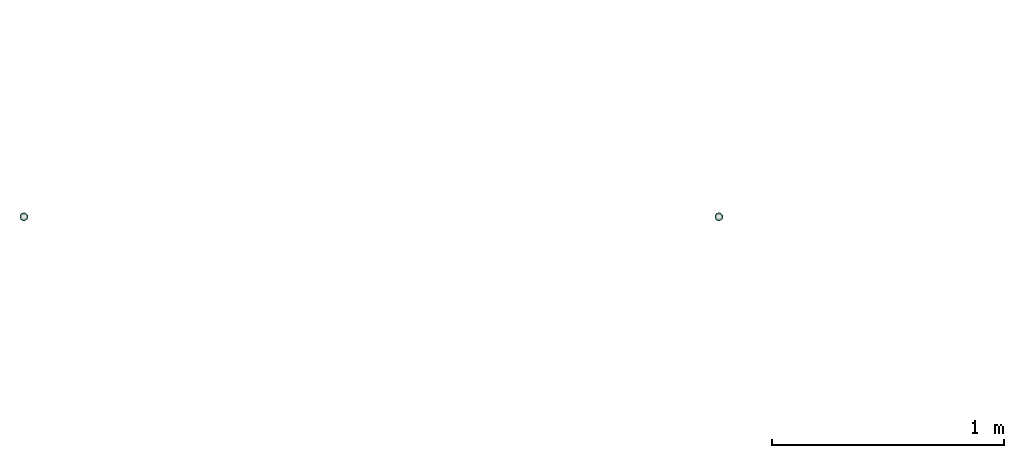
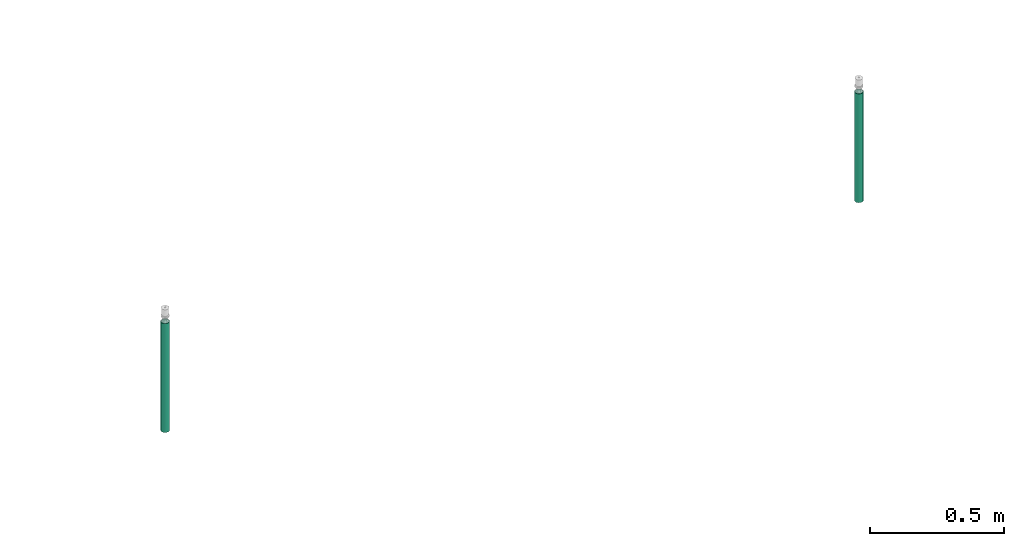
# One storey, part 35 of 44: 2 flow segments.
"""IFC2X3 building model written with IfcOpenShell, lengths in millimetres."""

from ifc_helpers import new_model, entity, si_unit, converted_unit, derived_unit, direction, frame, place, context, subcontext, project, spatial, faceted_brep, type_object, element, save


model = new_model("IFC2X3")

# Units and contexts
model_context = context("Model", 3, precision=0.01, world=frame((0.0, 4.29681676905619e-09, 0.0)), true_north=direction((4.01073788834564e-13, 1.0)))
plan_context = context("Plan", 3, precision=0.01, world=frame((0.0, 4.29681676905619e-09, 0.0)), true_north=direction((4.01073788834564e-13, 1.0)))
body_context = subcontext(model_context, "Body", "Model", "MODEL_VIEW")
ifc_project = project(units=[converted_unit("PLANEANGLEUNIT", "DEGREE", entity("IfcPositiveLengthMeasure", 0.0174532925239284), si_unit("PLANEANGLEUNIT", "RADIAN"), dimensions=[0, 0, 0, 0, 0, 0, 0]), si_unit("AREAUNIT", "SQUARE_METRE"), si_unit("LENGTHUNIT", "METRE", prefix="MILLI"), si_unit("MASSUNIT", "GRAM", prefix="KILO"), si_unit("POWERUNIT", "WATT"), si_unit("PRESSUREUNIT", "PASCAL"), si_unit("FORCEUNIT", "NEWTON", prefix="KILO"), si_unit("ELECTRICVOLTAGEUNIT", "VOLT"), si_unit("ELECTRICCURRENTUNIT", "AMPERE"), si_unit("THERMODYNAMICTEMPERATUREUNIT", "DEGREE_CELSIUS"), si_unit("TIMEUNIT", "SECOND"), si_unit("VOLUMEUNIT", "CUBIC_METRE"), derived_unit("LINEARVELOCITYUNIT", [(si_unit("LENGTHUNIT", "METRE"), 1), (si_unit("TIMEUNIT", "SECOND"), -1)]), derived_unit("VOLUMETRICFLOWRATEUNIT", [(si_unit("VOLUMEUNIT", "CUBIC_METRE"), 1), (si_unit("TIMEUNIT", "SECOND"), -1)]), derived_unit("THERMALTRANSMITTANCEUNIT", [(si_unit("POWERUNIT", "WATT"), 1), (si_unit("THERMODYNAMICTEMPERATUREUNIT", "KELVIN"), -1), (si_unit("AREAUNIT", "SQUARE_METRE"), -1)]), derived_unit("SOUNDPRESSUREUNIT", [(si_unit("PRESSUREUNIT", "PASCAL"), 1)])], contexts=[model_context, plan_context])

# Site, building, storey
site_placement = place(None, frame((0.0, -4.29681676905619e-09, 0.0), z_axis=(0.0, 0.0, 1.0), x_axis=(1.0, 0.0, 0.0)))
site = spatial("IfcSite", under=ifc_project, at=site_placement, CompositionType="ELEMENT")
building_placement = place(site_placement, frame((0.0, 4.29681676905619e-09, 0.0), z_axis=(0.0, 0.0, 1.0), x_axis=(1.0, 0.0, 0.0)))
building = spatial("IfcBuilding", under=site, at=building_placement, Name="mc-building", CompositionType="ELEMENT")
storey_placement = place(building_placement, frame((0.0, 0.0, 207370.0), z_axis=(0.0, 0.0, 1.0), x_axis=(1.0, 0.0, 0.0)))
storey = spatial("IfcBuildingStorey", under=building, at=storey_placement, Name="Nivå E", CompositionType="ELEMENT", Elevation=207370.0)

# Flow segments
pipe_segment_type = type_object("IfcPipeSegmentType", Name="Stålrør normaltykke", PredefinedType="RIGIDSEGMENT")
flow_segment_1_placement = place(storey_placement, frame((521500.0, 447269.83177, 3027.60555000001), z_axis=(1.0, 0.0, 0.0), x_axis=(0.0, 0.0, -1.0)))
element("IfcFlowSegment", 1, at=flow_segment_1_placement, inside=storey, type_object=pipe_segment_type, Name="Stålrør normaltykke", context=body_context, shape_type="Brep", body=[
    faceted_brep([(497.605550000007, 14.9, 0.0), (497.605550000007, 14.6736355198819, -2.58735784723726), (0.0, 14.6736355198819, -2.58735784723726), (0.0, 14.9, 0.0), (497.605550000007, 14.00142004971, -5.09610013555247), (0.0, 14.00142004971, -5.09610013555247), (497.605550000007, 12.9037785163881, -7.45000000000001), (0.0, 12.9037785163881, -7.45000000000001), (497.605550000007, 11.4140622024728, -9.57753538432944), (0.0, 11.4140622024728, -9.57753538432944), (497.605550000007, 9.57753538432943, -11.4140622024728), (0.0, 9.57753538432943, -11.4140622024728), (497.605550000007, 7.45, -12.9037785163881), (0.0, 7.45, -12.9037785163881), (497.605550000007, 5.09610013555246, -14.00142004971), (0.0, 5.09610013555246, -14.00142004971), (497.605550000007, 2.58735784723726, -14.6736355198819), (0.0, 2.58735784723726, -14.6736355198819), (497.605550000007, -2.73708559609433e-15, -14.9), (0.0, -2.73708559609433e-15, -14.9), (497.605550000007, -2.58735784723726, -14.6736355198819), (0.0, -2.58735784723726, -14.6736355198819), (497.605550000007, -5.09610013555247, -14.00142004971), (0.0, -5.09610013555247, -14.00142004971), (497.605550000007, -7.45000000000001, -12.9037785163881), (0.0, -7.45000000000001, -12.9037785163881), (497.605550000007, -9.57753538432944, -11.4140622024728), (0.0, -9.57753538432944, -11.4140622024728), (497.605550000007, -11.4140622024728, -9.57753538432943), (0.0, -11.4140622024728, -9.57753538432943), (497.605550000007, -12.9037785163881, -7.44999999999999), (0.0, -12.9037785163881, -7.44999999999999), (497.605550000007, -14.00142004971, -5.09610013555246), (0.0, -14.00142004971, -5.09610013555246), (497.605550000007, -14.6736355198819, -2.58735784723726), (0.0, -14.6736355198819, -2.58735784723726), (497.605550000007, -14.9, 1.82472373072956e-15), (0.0, -14.9, 1.82472373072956e-15), (497.605550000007, -14.6736355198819, 2.58735784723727), (0.0, -14.6736355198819, 2.58735784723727), (497.605550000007, -14.00142004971, 5.09610013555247), (0.0, -14.00142004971, 5.09610013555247), (497.605550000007, -12.9037785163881, 7.45), (0.0, -12.9037785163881, 7.45), (497.605550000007, -11.4140622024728, 9.57753538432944), (0.0, -11.4140622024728, 9.57753538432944), (497.605550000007, -9.57753538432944, 11.4140622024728), (0.0, -9.57753538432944, 11.4140622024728), (497.605550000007, -7.45, 12.9037785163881), (0.0, -7.45, 12.9037785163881), (497.605550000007, -5.09610013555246, 14.00142004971), (0.0, -5.09610013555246, 14.00142004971), (497.605550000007, -2.58735784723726, 14.6736355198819), (0.0, -2.58735784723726, 14.6736355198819), (497.605550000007, 9.12361865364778e-16, 14.9), (0.0, 9.12361865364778e-16, 14.9), (497.605550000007, 2.58735784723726, 14.6736355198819), (0.0, 2.58735784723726, 14.6736355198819), (497.605550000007, 5.09610013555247, 14.00142004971), (0.0, 5.09610013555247, 14.00142004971), (497.605550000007, 7.45, 12.9037785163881), (0.0, 7.45, 12.9037785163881), (497.605550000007, 9.57753538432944, 11.4140622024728), (0.0, 9.57753538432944, 11.4140622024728), (497.605550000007, 11.4140622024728, 9.57753538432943), (0.0, 11.4140622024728, 9.57753538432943), (497.605550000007, 12.9037785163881, 7.45), (0.0, 12.9037785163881, 7.45), (497.605550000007, 14.00142004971, 5.09610013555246), (0.0, 14.00142004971, 5.09610013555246), (497.605550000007, 14.6736355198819, 2.58735784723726), (0.0, 14.6736355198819, 2.58735784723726), (497.605550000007, 16.6432510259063, -2.93465420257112), (497.605550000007, 16.9, 0.0), (0.0, 16.9, 0.0), (0.0, 16.6432510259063, -2.93465420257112), (497.605550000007, 16.6432510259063, 2.93465420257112), (0.0, 16.6432510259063, 2.93465420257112), (497.605550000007, 15.8808052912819, 5.7801404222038), (0.0, 15.8808052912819, 5.7801404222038), (497.605550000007, 14.635829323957, 8.45), (0.0, 14.635829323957, 8.45), (497.605550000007, 12.9461510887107, 10.8631106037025), (0.0, 12.9461510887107, 10.8631106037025), (497.605550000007, 10.8631106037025, 12.9461510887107), (0.0, 10.8631106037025, 12.9461510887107), (497.605550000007, 8.45, 14.635829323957), (0.0, 8.45, 14.635829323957), (497.605550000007, 5.7801404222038, 15.8808052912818), (0.0, 5.7801404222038, 15.8808052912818), (497.605550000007, 2.93465420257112, 16.6432510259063), (0.0, 2.93465420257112, 16.6432510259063), (497.605550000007, 1.03482654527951e-15, 16.9), (0.0, 1.03482654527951e-15, 16.9), (497.605550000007, -2.93465420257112, 16.6432510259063), (0.0, -2.93465420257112, 16.6432510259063), (497.605550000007, -5.7801404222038, 15.8808052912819), (0.0, -5.7801404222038, 15.8808052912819), (497.605550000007, -8.45, 14.635829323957), (0.0, -8.45, 14.635829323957), (497.605550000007, -10.8631106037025, 12.9461510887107), (0.0, -10.8631106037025, 12.9461510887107), (497.605550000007, -12.9461510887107, 10.8631106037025), (0.0, -12.9461510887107, 10.8631106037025), (497.605550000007, -14.635829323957, 8.45), (0.0, -14.635829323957, 8.45), (497.605550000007, -15.8808052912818, 5.7801404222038), (0.0, -15.8808052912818, 5.7801404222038), (497.605550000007, -16.6432510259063, 2.93465420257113), (0.0, -16.6432510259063, 2.93465420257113), (497.605550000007, -16.9, 2.06965309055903e-15), (0.0, -16.9, 2.06965309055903e-15), (497.605550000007, -16.6432510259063, -2.93465420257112), (0.0, -16.6432510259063, -2.93465420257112), (497.605550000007, -15.8808052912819, -5.7801404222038), (0.0, -15.8808052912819, -5.7801404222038), (497.605550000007, -14.635829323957, -8.44999999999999), (0.0, -14.635829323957, -8.44999999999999), (497.605550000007, -12.9461510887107, -10.8631106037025), (0.0, -12.9461510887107, -10.8631106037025), (497.605550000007, -10.8631106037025, -12.9461510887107), (0.0, -10.8631106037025, -12.9461510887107), (497.605550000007, -8.45000000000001, -14.635829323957), (0.0, -8.45000000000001, -14.635829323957), (497.605550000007, -5.78014042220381, -15.8808052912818), (0.0, -5.78014042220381, -15.8808052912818), (497.605550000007, -2.93465420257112, -16.6432510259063), (0.0, -2.93465420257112, -16.6432510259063), (497.605550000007, -3.10447963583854e-15, -16.9), (0.0, -3.10447963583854e-15, -16.9), (497.605550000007, 2.93465420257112, -16.6432510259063), (0.0, 2.93465420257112, -16.6432510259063), (497.605550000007, 5.78014042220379, -15.8808052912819), (0.0, 5.78014042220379, -15.8808052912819), (497.605550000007, 8.45, -14.635829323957), (0.0, 8.45, -14.635829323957), (497.605550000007, 10.8631106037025, -12.9461510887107), (0.0, 10.8631106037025, -12.9461510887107), (497.605550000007, 12.9461510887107, -10.8631106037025), (0.0, 12.9461510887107, -10.8631106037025), (497.605550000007, 14.635829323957, -8.45000000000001), (0.0, 14.635829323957, -8.45000000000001), (497.605550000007, 15.8808052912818, -5.78014042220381), (0.0, 15.8808052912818, -5.78014042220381)], [[[0, 1, 2, 3]], [[1, 4, 5, 2]], [[4, 6, 7, 5]], [[6, 8, 9, 7]], [[8, 10, 11, 9]], [[10, 12, 13, 11]], [[12, 14, 15, 13]], [[14, 16, 17, 15]], [[16, 18, 19, 17]], [[18, 20, 21, 19]], [[20, 22, 23, 21]], [[22, 24, 25, 23]], [[24, 26, 27, 25]], [[26, 28, 29, 27]], [[28, 30, 31, 29]], [[30, 32, 33, 31]], [[32, 34, 35, 33]], [[34, 36, 37, 35]], [[36, 38, 39, 37]], [[38, 40, 41, 39]], [[40, 42, 43, 41]], [[42, 44, 45, 43]], [[44, 46, 47, 45]], [[46, 48, 49, 47]], [[48, 50, 51, 49]], [[50, 52, 53, 51]], [[52, 54, 55, 53]], [[54, 56, 57, 55]], [[56, 58, 59, 57]], [[58, 60, 61, 59]], [[60, 62, 63, 61]], [[62, 64, 65, 63]], [[64, 66, 67, 65]], [[66, 68, 69, 67]], [[68, 70, 71, 69]], [[70, 0, 3, 71]], [[72, 73, 74, 75]], [[73, 76, 77, 74]], [[76, 78, 79, 77]], [[78, 80, 81, 79]], [[80, 82, 83, 81]], [[82, 84, 85, 83]], [[84, 86, 87, 85]], [[86, 88, 89, 87]], [[88, 90, 91, 89]], [[90, 92, 93, 91]], [[92, 94, 95, 93]], [[94, 96, 97, 95]], [[96, 98, 99, 97]], [[98, 100, 101, 99]], [[100, 102, 103, 101]], [[102, 104, 105, 103]], [[104, 106, 107, 105]], [[106, 108, 109, 107]], [[108, 110, 111, 109]], [[110, 112, 113, 111]], [[112, 114, 115, 113]], [[114, 116, 117, 115]], [[116, 118, 119, 117]], [[118, 120, 121, 119]], [[120, 122, 123, 121]], [[122, 124, 125, 123]], [[124, 126, 127, 125]], [[126, 128, 129, 127]], [[128, 130, 131, 129]], [[130, 132, 133, 131]], [[132, 134, 135, 133]], [[134, 136, 137, 135]], [[136, 138, 139, 137]], [[138, 140, 141, 139]], [[140, 142, 143, 141]], [[142, 72, 75, 143]], [[75, 74, 77, 79, 81, 83, 85, 87, 89, 91, 93, 95, 97, 99, 101, 103, 105, 107, 109, 111, 113, 115, 117, 119, 121, 123, 125, 127, 129, 131, 133, 135, 137, 139, 141, 143], [3, 2, 5, 7, 9, 11, 13, 15, 17, 19, 21, 23, 25, 27, 29, 31, 33, 35, 37, 39, 41, 43, 45, 47, 49, 51, 53, 55, 57, 59, 61, 63, 65, 67, 69, 71]], [[142, 140, 138, 136, 134, 132, 130, 128, 126, 124, 122, 120, 118, 116, 114, 112, 110, 108, 106, 104, 102, 100, 98, 96, 94, 92, 90, 88, 86, 84, 82, 80, 78, 76, 73, 72], [70, 68, 66, 64, 62, 60, 58, 56, 54, 52, 50, 48, 46, 44, 42, 40, 38, 36, 34, 32, 30, 28, 26, 24, 22, 20, 18, 16, 14, 12, 10, 8, 6, 4, 1, 0]]], orient=[[False], [False], [False], [False], [False], [False], [False], [False], [False], [False], [False], [False], [False], [False], [False], [False], [False], [False], [False], [False], [False], [False], [False], [False], [False], [False], [False], [False], [False], [False], [False], [False], [False], [False], [False], [False], [False], [False], [False], [False], [False], [False], [False], [False], [False], [False], [False], [False], [False], [False], [False], [False], [False], [False], [False], [False], [False], [False], [False], [False], [False], [False], [False], [False], [False], [False], [False], [False], [False], [False], [False], [False], [False, False], [False, False]]),
])
flow_segment_2_placement = place(storey_placement, frame((524500.5875, 447269.83177, 3027.60555000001), z_axis=(0.0, 1.0, 0.0), x_axis=(0.0, 0.0, -1.0)))
element("IfcFlowSegment", 2, at=flow_segment_2_placement, inside=storey, type_object=pipe_segment_type, Name="Stålrør normaltykke", context=body_context, shape_type="Brep", body=[
    faceted_brep([(497.605550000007, 14.9, 0.0), (497.605550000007, 14.6736355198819, -2.58735784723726), (0.0, 14.6736355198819, -2.58735784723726), (0.0, 14.9, 0.0), (497.605550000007, 14.00142004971, -5.09610013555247), (0.0, 14.00142004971, -5.09610013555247), (497.605550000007, 12.9037785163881, -7.45000000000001), (0.0, 12.9037785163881, -7.45000000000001), (497.605550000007, 11.4140622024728, -9.57753538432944), (0.0, 11.4140622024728, -9.57753538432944), (497.605550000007, 9.57753538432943, -11.4140622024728), (0.0, 9.57753538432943, -11.4140622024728), (497.605550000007, 7.45, -12.9037785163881), (0.0, 7.45, -12.9037785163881), (497.605550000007, 5.09610013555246, -14.00142004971), (0.0, 5.09610013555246, -14.00142004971), (497.605550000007, 2.58735784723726, -14.6736355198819), (0.0, 2.58735784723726, -14.6736355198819), (497.605550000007, -2.73708559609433e-15, -14.9), (0.0, -2.73708559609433e-15, -14.9), (497.605550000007, -2.58735784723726, -14.6736355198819), (0.0, -2.58735784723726, -14.6736355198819), (497.605550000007, -5.09610013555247, -14.00142004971), (0.0, -5.09610013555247, -14.00142004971), (497.605550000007, -7.45000000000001, -12.9037785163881), (0.0, -7.45000000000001, -12.9037785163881), (497.605550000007, -9.57753538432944, -11.4140622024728), (0.0, -9.57753538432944, -11.4140622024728), (497.605550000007, -11.4140622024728, -9.57753538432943), (0.0, -11.4140622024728, -9.57753538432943), (497.605550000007, -12.9037785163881, -7.44999999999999), (0.0, -12.9037785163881, -7.44999999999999), (497.605550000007, -14.00142004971, -5.09610013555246), (0.0, -14.00142004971, -5.09610013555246), (497.605550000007, -14.6736355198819, -2.58735784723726), (0.0, -14.6736355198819, -2.58735784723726), (497.605550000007, -14.9, 1.82472373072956e-15), (0.0, -14.9, 1.82472373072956e-15), (497.605550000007, -14.6736355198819, 2.58735784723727), (0.0, -14.6736355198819, 2.58735784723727), (497.605550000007, -14.00142004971, 5.09610013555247), (0.0, -14.00142004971, 5.09610013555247), (497.605550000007, -12.9037785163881, 7.45), (0.0, -12.9037785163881, 7.45), (497.605550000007, -11.4140622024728, 9.57753538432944), (0.0, -11.4140622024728, 9.57753538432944), (497.605550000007, -9.57753538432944, 11.4140622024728), (0.0, -9.57753538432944, 11.4140622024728), (497.605550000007, -7.45, 12.9037785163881), (0.0, -7.45, 12.9037785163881), (497.605550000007, -5.09610013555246, 14.00142004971), (0.0, -5.09610013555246, 14.00142004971), (497.605550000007, -2.58735784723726, 14.6736355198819), (0.0, -2.58735784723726, 14.6736355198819), (497.605550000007, 9.12361865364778e-16, 14.9), (0.0, 9.12361865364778e-16, 14.9), (497.605550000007, 2.58735784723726, 14.6736355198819), (0.0, 2.58735784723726, 14.6736355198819), (497.605550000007, 5.09610013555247, 14.00142004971), (0.0, 5.09610013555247, 14.00142004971), (497.605550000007, 7.45, 12.9037785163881), (0.0, 7.45, 12.9037785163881), (497.605550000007, 9.57753538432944, 11.4140622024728), (0.0, 9.57753538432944, 11.4140622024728), (497.605550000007, 11.4140622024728, 9.57753538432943), (0.0, 11.4140622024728, 9.57753538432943), (497.605550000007, 12.9037785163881, 7.45), (0.0, 12.9037785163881, 7.45), (497.605550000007, 14.00142004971, 5.09610013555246), (0.0, 14.00142004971, 5.09610013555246), (497.605550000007, 14.6736355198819, 2.58735784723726), (0.0, 14.6736355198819, 2.58735784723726), (497.605550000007, 16.6432510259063, -2.93465420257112), (497.605550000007, 16.9, 0.0), (0.0, 16.9, 0.0), (0.0, 16.6432510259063, -2.93465420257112), (497.605550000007, 16.6432510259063, 2.93465420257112), (0.0, 16.6432510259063, 2.93465420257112), (497.605550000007, 15.8808052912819, 5.7801404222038), (0.0, 15.8808052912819, 5.7801404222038), (497.605550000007, 14.635829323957, 8.45), (0.0, 14.635829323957, 8.45), (497.605550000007, 12.9461510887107, 10.8631106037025), (0.0, 12.9461510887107, 10.8631106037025), (497.605550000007, 10.8631106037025, 12.9461510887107), (0.0, 10.8631106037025, 12.9461510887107), (497.605550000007, 8.45, 14.635829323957), (0.0, 8.45, 14.635829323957), (497.605550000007, 5.7801404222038, 15.8808052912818), (0.0, 5.7801404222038, 15.8808052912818), (497.605550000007, 2.93465420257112, 16.6432510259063), (0.0, 2.93465420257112, 16.6432510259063), (497.605550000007, 1.03482654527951e-15, 16.9), (0.0, 1.03482654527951e-15, 16.9), (497.605550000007, -2.93465420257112, 16.6432510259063), (0.0, -2.93465420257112, 16.6432510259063), (497.605550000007, -5.7801404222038, 15.8808052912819), (0.0, -5.7801404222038, 15.8808052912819), (497.605550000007, -8.45, 14.635829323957), (0.0, -8.45, 14.635829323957), (497.605550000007, -10.8631106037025, 12.9461510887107), (0.0, -10.8631106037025, 12.9461510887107), (497.605550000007, -12.9461510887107, 10.8631106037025), (0.0, -12.9461510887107, 10.8631106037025), (497.605550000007, -14.635829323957, 8.45), (0.0, -14.635829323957, 8.45), (497.605550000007, -15.8808052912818, 5.7801404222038), (0.0, -15.8808052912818, 5.7801404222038), (497.605550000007, -16.6432510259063, 2.93465420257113), (0.0, -16.6432510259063, 2.93465420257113), (497.605550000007, -16.9, 2.06965309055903e-15), (0.0, -16.9, 2.06965309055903e-15), (497.605550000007, -16.6432510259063, -2.93465420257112), (0.0, -16.6432510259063, -2.93465420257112), (497.605550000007, -15.8808052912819, -5.7801404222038), (0.0, -15.8808052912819, -5.7801404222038), (497.605550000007, -14.635829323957, -8.44999999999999), (0.0, -14.635829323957, -8.44999999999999), (497.605550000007, -12.9461510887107, -10.8631106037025), (0.0, -12.9461510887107, -10.8631106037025), (497.605550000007, -10.8631106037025, -12.9461510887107), (0.0, -10.8631106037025, -12.9461510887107), (497.605550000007, -8.45000000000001, -14.635829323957), (0.0, -8.45000000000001, -14.635829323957), (497.605550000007, -5.78014042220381, -15.8808052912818), (0.0, -5.78014042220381, -15.8808052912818), (497.605550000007, -2.93465420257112, -16.6432510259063), (0.0, -2.93465420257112, -16.6432510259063), (497.605550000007, -3.10447963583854e-15, -16.9), (0.0, -3.10447963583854e-15, -16.9), (497.605550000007, 2.93465420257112, -16.6432510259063), (0.0, 2.93465420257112, -16.6432510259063), (497.605550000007, 5.78014042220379, -15.8808052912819), (0.0, 5.78014042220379, -15.8808052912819), (497.605550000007, 8.45, -14.635829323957), (0.0, 8.45, -14.635829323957), (497.605550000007, 10.8631106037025, -12.9461510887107), (0.0, 10.8631106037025, -12.9461510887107), (497.605550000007, 12.9461510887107, -10.8631106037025), (0.0, 12.9461510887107, -10.8631106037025), (497.605550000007, 14.635829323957, -8.45000000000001), (0.0, 14.635829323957, -8.45000000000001), (497.605550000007, 15.8808052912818, -5.78014042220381), (0.0, 15.8808052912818, -5.78014042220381)], [[[0, 1, 2, 3]], [[1, 4, 5, 2]], [[4, 6, 7, 5]], [[6, 8, 9, 7]], [[8, 10, 11, 9]], [[10, 12, 13, 11]], [[12, 14, 15, 13]], [[14, 16, 17, 15]], [[16, 18, 19, 17]], [[18, 20, 21, 19]], [[20, 22, 23, 21]], [[22, 24, 25, 23]], [[24, 26, 27, 25]], [[26, 28, 29, 27]], [[28, 30, 31, 29]], [[30, 32, 33, 31]], [[32, 34, 35, 33]], [[34, 36, 37, 35]], [[36, 38, 39, 37]], [[38, 40, 41, 39]], [[40, 42, 43, 41]], [[42, 44, 45, 43]], [[44, 46, 47, 45]], [[46, 48, 49, 47]], [[48, 50, 51, 49]], [[50, 52, 53, 51]], [[52, 54, 55, 53]], [[54, 56, 57, 55]], [[56, 58, 59, 57]], [[58, 60, 61, 59]], [[60, 62, 63, 61]], [[62, 64, 65, 63]], [[64, 66, 67, 65]], [[66, 68, 69, 67]], [[68, 70, 71, 69]], [[70, 0, 3, 71]], [[72, 73, 74, 75]], [[73, 76, 77, 74]], [[76, 78, 79, 77]], [[78, 80, 81, 79]], [[80, 82, 83, 81]], [[82, 84, 85, 83]], [[84, 86, 87, 85]], [[86, 88, 89, 87]], [[88, 90, 91, 89]], [[90, 92, 93, 91]], [[92, 94, 95, 93]], [[94, 96, 97, 95]], [[96, 98, 99, 97]], [[98, 100, 101, 99]], [[100, 102, 103, 101]], [[102, 104, 105, 103]], [[104, 106, 107, 105]], [[106, 108, 109, 107]], [[108, 110, 111, 109]], [[110, 112, 113, 111]], [[112, 114, 115, 113]], [[114, 116, 117, 115]], [[116, 118, 119, 117]], [[118, 120, 121, 119]], [[120, 122, 123, 121]], [[122, 124, 125, 123]], [[124, 126, 127, 125]], [[126, 128, 129, 127]], [[128, 130, 131, 129]], [[130, 132, 133, 131]], [[132, 134, 135, 133]], [[134, 136, 137, 135]], [[136, 138, 139, 137]], [[138, 140, 141, 139]], [[140, 142, 143, 141]], [[142, 72, 75, 143]], [[75, 74, 77, 79, 81, 83, 85, 87, 89, 91, 93, 95, 97, 99, 101, 103, 105, 107, 109, 111, 113, 115, 117, 119, 121, 123, 125, 127, 129, 131, 133, 135, 137, 139, 141, 143], [3, 2, 5, 7, 9, 11, 13, 15, 17, 19, 21, 23, 25, 27, 29, 31, 33, 35, 37, 39, 41, 43, 45, 47, 49, 51, 53, 55, 57, 59, 61, 63, 65, 67, 69, 71]], [[142, 140, 138, 136, 134, 132, 130, 128, 126, 124, 122, 120, 118, 116, 114, 112, 110, 108, 106, 104, 102, 100, 98, 96, 94, 92, 90, 88, 86, 84, 82, 80, 78, 76, 73, 72], [70, 68, 66, 64, 62, 60, 58, 56, 54, 52, 50, 48, 46, 44, 42, 40, 38, 36, 34, 32, 30, 28, 26, 24, 22, 20, 18, 16, 14, 12, 10, 8, 6, 4, 1, 0]]], orient=[[False], [False], [False], [False], [False], [False], [False], [False], [False], [False], [False], [False], [False], [False], [False], [False], [False], [False], [False], [False], [False], [False], [False], [False], [False], [False], [False], [False], [False], [False], [False], [False], [False], [False], [False], [False], [False], [False], [False], [False], [False], [False], [False], [False], [False], [False], [False], [False], [False], [False], [False], [False], [False], [False], [False], [False], [False], [False], [False], [False], [False], [False], [False], [False], [False], [False], [False], [False], [False], [False], [False], [False], [False, False], [False, False]]),
])

save(model, "model.ifc")
